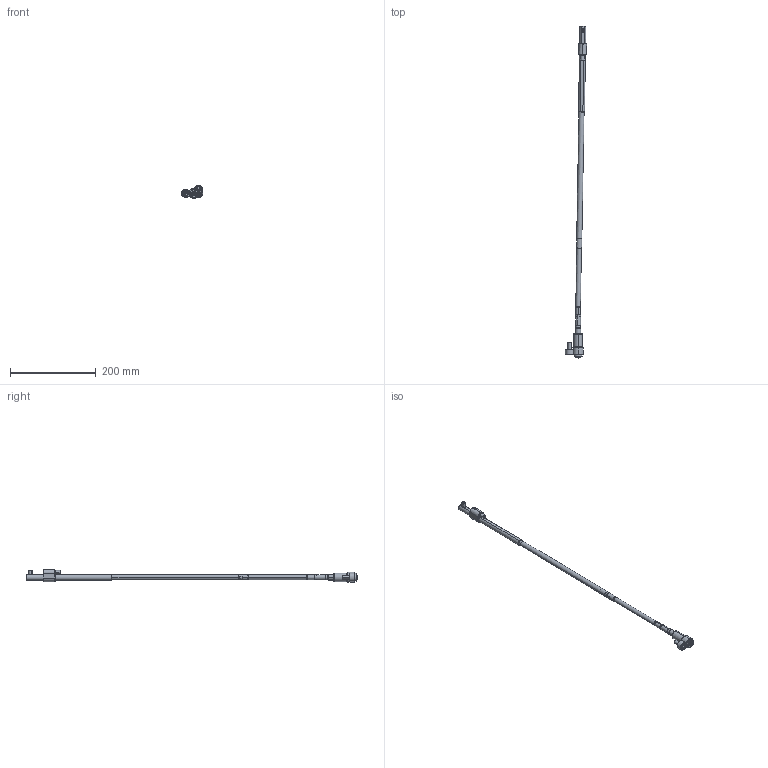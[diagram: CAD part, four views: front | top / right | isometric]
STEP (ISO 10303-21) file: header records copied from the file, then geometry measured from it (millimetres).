
FILE_DESCRIPTION (( 'STEP AP214' ), '1' );
FILE_NAME ('WL120125-EJE 1°.STEP', '2021-03-19T15:37:41', ( '' ), ( '' ), 'SwSTEP 2.0', 'SolidWorks 2019', '' );
FILE_SCHEMA (( 'AUTOMOTIVE_DESIGN' ));
Length unit declared in the file: millimetre
Products named in the file (17): Web-WL12-A2; 1DIN912645_DIN 912 M6 x 45 --- 45C; WL120100-D; WL120100-B1; WL120100-E; Web-WL12-A3; Web-WL12-A1; Web-WL12-A8; Web-WL12-F00.SLDPRT; 1DIN912820_DIN 912 M8 x 20 --- 20C; Web-WL12-XX_ON-WL120125-1; WL120125-EJE 1°; 8WL12EJEP; WL120100-B; 3IMAN5X3-150_con sellador; 9DR2808-TOR; Web-WL12-F01
Assembly tree (16 placements, depth 3):
  WL120125-EJE 1°
    Web-WL12-A8
    Web-WL12-XX_ON-WL120125-1
    Web-WL12-A3
    Web-WL12-A2
    Web-WL12-A1
    Web-WL12-F00.SLDPRT
      Web-WL12-F01
      1DIN912820_DIN 912 M8 x 20 --- 20C
      1DIN912645_DIN 912 M6 x 45 --- 45C
    WL120100-D
    8WL12EJEP
    WL120100-E
    9DR2808-TOR
    WL120100-B
      WL120100-B1
      3IMAN5X3-150_con sellador
Bounding box: 49.1 x 773.02 x 29.9 mm (x, y, z)
Volume: 116548.8 mm3; surface area: 51030.1 mm2
Topology: 15 solids, 15 shells, 432 faces, 906 edges, 525 vertices
Faces by surface type: plane 139, cylinder 123, cone 120, torus 50
Entity records: 13661 total; most frequent: DIRECTION 2240, CARTESIAN_POINT 2104, ORIENTED_EDGE 1788, AXIS2_PLACEMENT_3D 929, EDGE_CURVE 894, VERTEX_POINT 525, EDGE_LOOP 477, CIRCLE 476
